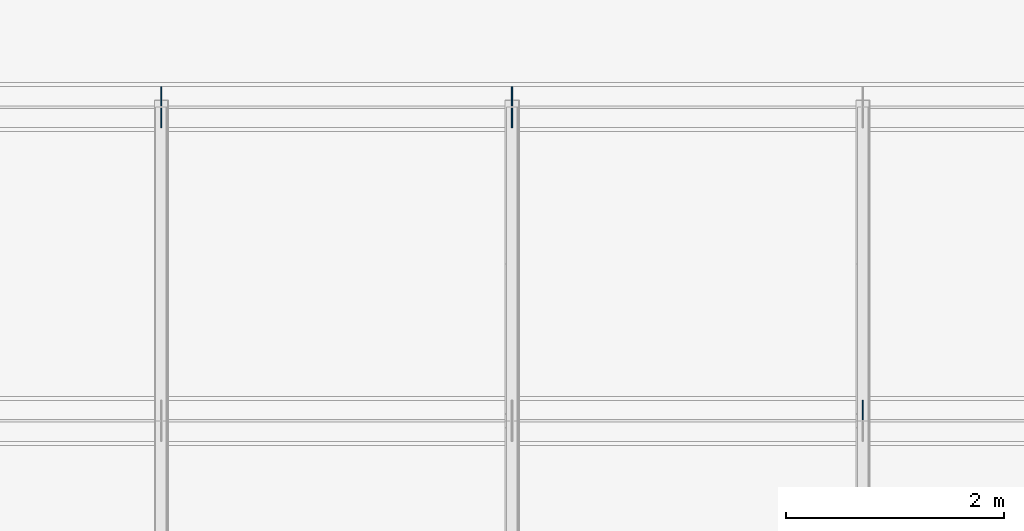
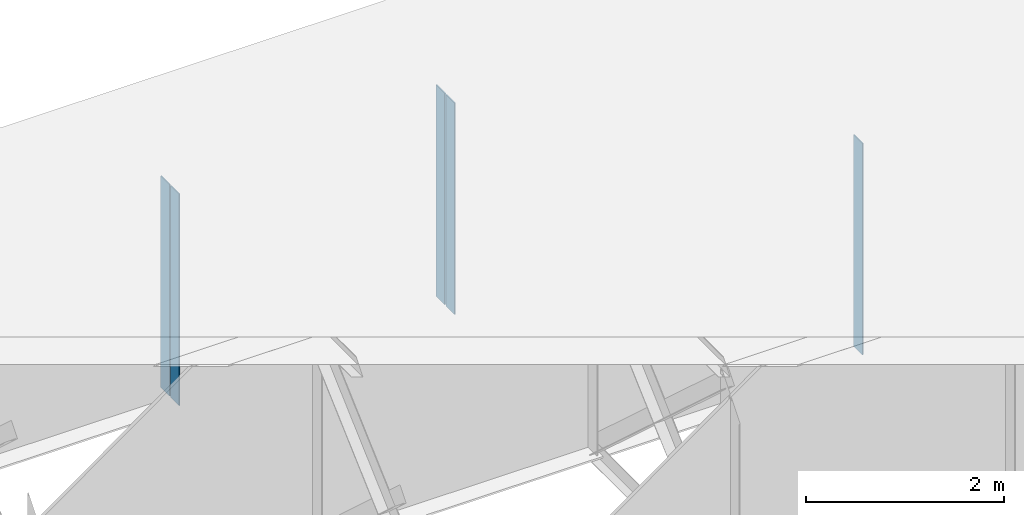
# One storey, part 9 of 12: 5 plates.
"""IFC4 building model written with IfcOpenShell, lengths in metres."""

from ifc_helpers import new_model, si_unit, frame, origin, origin_with_axes, origin_2d_with_axis, place, context, subcontext, project, spatial, rectangle, extrude, element, save


model = new_model("IFC4")

# Units and contexts
model_context = context("Model", 3, precision=1e-05, world=origin())
body_context = subcontext(model_context, "Body", "Model", "MODEL_VIEW")
ifc_project = project(units=[si_unit("LENGTHUNIT", "METRE"), si_unit("AREAUNIT", "SQUARE_METRE"), si_unit("VOLUMEUNIT", "CUBIC_METRE"), si_unit("PLANEANGLEUNIT", "RADIAN")], contexts=[model_context])

# Site, building, storey
site_placement = place(None, origin_with_axes())
site = spatial("IfcSite", under=ifc_project, at=site_placement, Name="Default Site")
building_placement = place(site_placement, origin_with_axes())
building = spatial("IfcBuilding", under=site, at=building_placement, Name="Bridge Structure")
storey_placement = place(building_placement, origin_with_axes())
storey = spatial("IfcBuildingStorey", under=building, at=storey_placement, Name="Superstructure")

# Plates
for number, where, z_axis, x_axis, name in (
    (1, (22.498, 0.09925, -1.305), (0.0, 0.0, 1.0), (1.0, 0.0, 0.0), "Intermediate Stiffener 2"),
    (2, (16.07, 2.97425, -1.305), (0.0, 0.0, 1.0), (1.0, 0.0, 0.0), "Intermediate Stiffener 3"),
    (3, (16.07, 2.77575, -1.305), (0.0, 0.0, 1.0), (1.0, 0.0, 0.0), "Intermediate Stiffener 3"),
    (4, (19.284, 2.97425, -1.305), (0.0, 0.0, 1.0), (1.0, 0.0, 0.0), "Intermediate Stiffener 3"),
    (5, (19.284, 2.77575, -1.305), (0.0, 0.0, 1.0), (1.0, 0.0, 0.0), "Intermediate Stiffener 3"),
):
    element("IfcPlate", number, at=place(storey_placement, frame(where, z_axis=z_axis, x_axis=x_axis)), inside=storey, Name=name, context=body_context, shape_type="SweptSolid", body=[
        extrude(rectangle(XDim=0.012, YDim=0.1765, at=origin_2d_with_axis()), origin_with_axes(), (0.0, 0.0, 1.0), 2.61),
    ])

save(model, "model.ifc")
